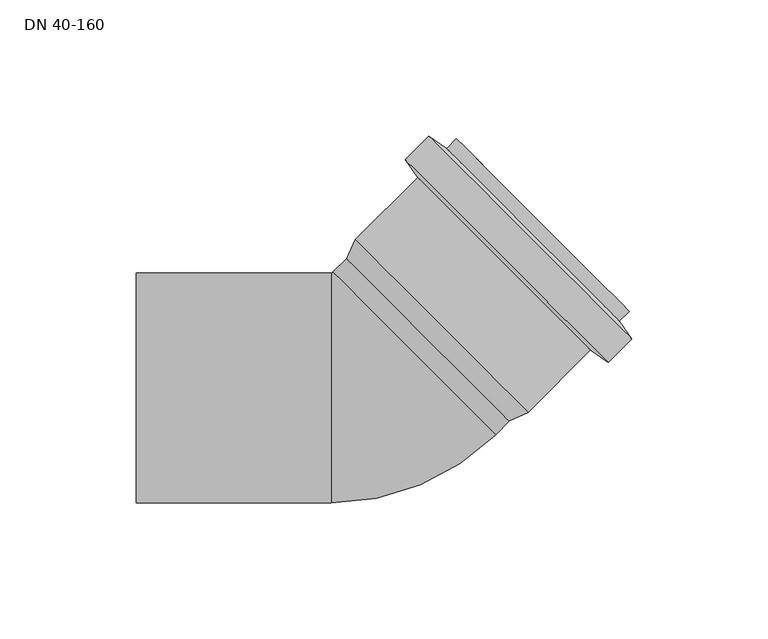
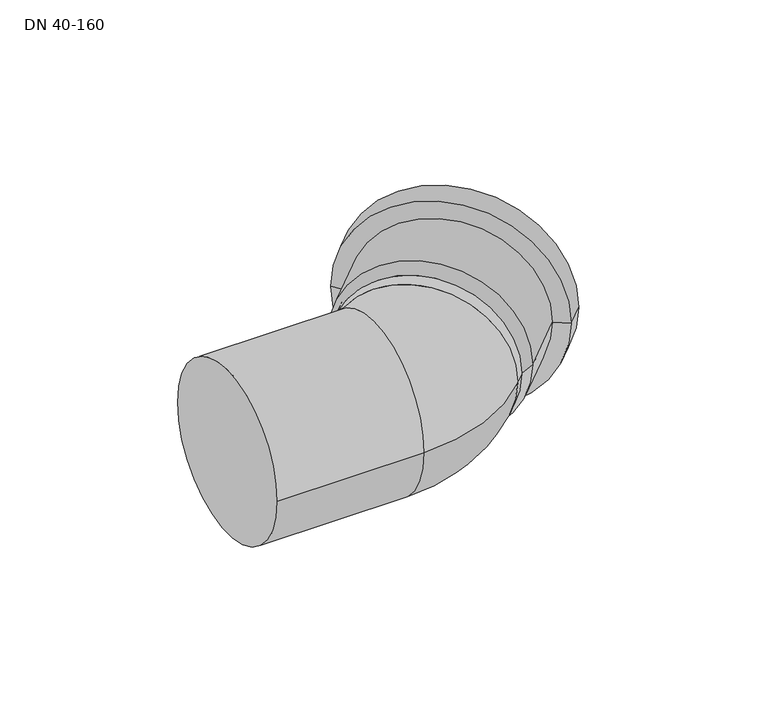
"""IFC4 building model written with IfcOpenShell, lengths in millimetres: pipe fitting geometry, PIF_Master 3+ kolano-sh_Pipelife : DN 40-160."""

from ifc_helpers import new_model, si_unit, point, frame, origin, place, context, project, spatial, polyline, circle_curve, ellipse_curve, trimmed, source, transform, mapped, element, save
from ifc_brep_helpers import plane_surface, cylinder_surface, revolved_surface, advanced_brep


def dn_40_160_16ce5ff3(model_context):
    return source(origin(), model_context, "Body", "AdvancedBrep", [
        advanced_brep(
        [(-12.1622366, 47.5175757, 0.0), (47.5175757, -12.1622366, 0.0), (89.6611399, 29.9813275, 0.0), (29.9813275, 89.6611399, 0.0), (-8.9495385, 54.4072291, 0.0), (54.4072291, -8.9495385, 0.0), (13.9300036, 77.2867712, 0.0), (77.2867712, 13.9300036, 0.0), (9.3434085, 83.8371079, 0.0), (83.8371079, 9.3434085, 0.0), (17.9862686, 92.479968, 0.0), (92.479968, 17.9862686, 0.0), (24.5366053, 87.8933729, 0.0), (87.8933729, 24.5366053, 0.0), (28.1428499, 91.4996175, 0.0), (91.4996175, 28.1428499, 0.0)],
        [
            (0, 1, circle_curve(frame((17.6776695, 17.6776695, 0.0), z_axis=(-0.7071067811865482, -0.707106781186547, 0.0), x_axis=(0.7071067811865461, -0.7071067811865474, 0.0)), 42.2)),
            (1, 2),
            (2, 3, circle_curve(frame((59.8212337, 59.8212337, 0.0), z_axis=(0.7071067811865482, 0.707106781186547, 0.0), x_axis=(0.7071067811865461, -0.7071067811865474, 0.0)), 42.2)),
            (3, 0),
            (1, 0, circle_curve(frame((17.6776695, 17.6776695, 0.0), z_axis=(-0.7071067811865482, -0.707106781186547, 0.0), x_axis=(0.7071067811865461, -0.7071067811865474, 0.0)), 42.2)),
            (3, 2, circle_curve(frame((59.8212337, 59.8212337, 0.0), z_axis=(0.7071067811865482, 0.707106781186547, 0.0), x_axis=(0.7071067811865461, -0.7071067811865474, 0.0)), 42.2)),
            (4, 5, circle_curve(frame((22.7288453, 22.7288453, 0.0), z_axis=(-0.7071067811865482, -0.707106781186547, 0.0), x_axis=(0.7071067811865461, -0.7071067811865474, 0.0)), 44.8)),
            (5, 1),
            (0, 4),
            (5, 4, circle_curve(frame((22.7288453, 22.7288453, 0.0), z_axis=(-0.7071067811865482, -0.707106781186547, 0.0), x_axis=(0.7071067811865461, -0.7071067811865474, 0.0)), 44.8)),
            (6, 7, circle_curve(frame((45.6083874, 45.6083874, 0.0), z_axis=(-0.7071067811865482, -0.707106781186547, 0.0), x_axis=(0.7071067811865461, -0.7071067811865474, 0.0)), 44.8)),
            (7, 5),
            (4, 6),
            (7, 6, circle_curve(frame((45.6083874, 45.6083874, 0.0), z_axis=(-0.7071067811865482, -0.707106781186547, 0.0), x_axis=(0.7071067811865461, -0.7071067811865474, 0.0)), 44.8)),
            (8, 9, circle_curve(frame((46.5902582, 46.5902582, 0.0), z_axis=(-0.7071067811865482, -0.707106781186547, 0.0), x_axis=(0.7071067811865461, -0.7071067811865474, 0.0)), 52.675)),
            (9, 7),
            (6, 8),
            (9, 8, circle_curve(frame((46.5902582, 46.5902582, 0.0), z_axis=(-0.7071067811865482, -0.707106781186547, 0.0), x_axis=(0.7071067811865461, -0.7071067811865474, 0.0)), 52.675)),
            (10, 11, circle_curve(frame((55.2331183, 55.2331183, 0.0), z_axis=(-0.7071067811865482, -0.707106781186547, 0.0), x_axis=(0.7071067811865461, -0.7071067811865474, 0.0)), 52.675)),
            (11, 9),
            (8, 10),
            (11, 10, circle_curve(frame((55.2331183, 55.2331183, 0.0), z_axis=(-0.7071067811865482, -0.707106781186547, 0.0), x_axis=(0.7071067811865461, -0.7071067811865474, 0.0)), 52.675)),
            (12, 13, circle_curve(frame((56.2149891, 56.2149891, 0.0), z_axis=(-0.7071067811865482, -0.707106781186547, 0.0), x_axis=(0.7071067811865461, -0.7071067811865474, 0.0)), 44.8)),
            (13, 11),
            (10, 12),
            (13, 12, circle_curve(frame((56.2149891, 56.2149891, 0.0), z_axis=(-0.7071067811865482, -0.707106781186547, 0.0), x_axis=(0.7071067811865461, -0.7071067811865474, 0.0)), 44.8)),
            (14, 15, circle_curve(frame((59.8212337, 59.8212337, 0.0), z_axis=(-0.7071067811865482, -0.707106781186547, 0.0), x_axis=(0.7071067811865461, -0.7071067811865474, 0.0)), 44.8)),
            (15, 13),
            (12, 14),
            (15, 14, circle_curve(frame((59.8212337, 59.8212337, 0.0), z_axis=(-0.7071067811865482, -0.707106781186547, 0.0), x_axis=(0.7071067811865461, -0.7071067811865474, 0.0)), 44.8)),
            (2, 15),
            (14, 3),
        ],
        [
            revolved_surface(polyline([(89.66113986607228, 29.98132753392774, 0.0), (47.51757566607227, -12.162236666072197, 0.0)]), (66.8923015, 66.8923015, 0.0), (0.7071067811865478, 0.7071067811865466, 0.0)),
            revolved_surface(polyline([(47.5175757, -12.1622366, 0.0), (54.4072291, -8.9495385, 0.0)]), (66.8923015, 66.8923015, 0.0), (0.7071067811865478, 0.7071067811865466, 0.0)),
            cylinder_surface(frame((66.8923015, 66.8923015, 0.0), z_axis=(0.7071067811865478, 0.7071067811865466, 0.0), x_axis=(0.7071067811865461, -0.7071067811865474, 0.0)), 44.8),
            revolved_surface(polyline([(77.2867712, 13.9300036, 0.0), (83.8371079, 9.3434085, 0.0)]), (66.8923015, 66.8923015, 0.0), (0.7071067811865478, 0.7071067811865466, 0.0)),
            cylinder_surface(frame((66.8923015, 66.8923015, 0.0), z_axis=(0.7071067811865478, 0.7071067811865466, 0.0), x_axis=(0.7071067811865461, -0.7071067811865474, 0.0)), 52.675),
            revolved_surface(polyline([(92.479968, 17.9862686, 0.0), (87.8933729, 24.5366053, 0.0)]), (66.8923015, 66.8923015, 0.0), (0.7071067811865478, 0.7071067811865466, 0.0)),
            plane_surface(frame((59.8212337, 59.8212337, 0.0), z_axis=(0.7071067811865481, 0.7071067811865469, 0.0), x_axis=(0.7071067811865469, -0.7071067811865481, 0.0))),
        ],
        [
            (0, [[1, 2, 3, 4]]),
            (0, [[5, -4, 6, -2]]),
            (1, [[7, 8, -1, 9]]),
            (1, [[10, -9, -5, -8]]),
            (2, [[11, 12, -7, 13]]),
            (2, [[14, -13, -10, -12]]),
            (3, [[15, 16, -11, 17]]),
            (3, [[18, -17, -14, -16]]),
            (4, [[19, 20, -15, 21]]),
            (4, [[22, -21, -18, -20]]),
            (5, [[23, 24, -19, 25]]),
            (5, [[26, -25, -22, -24]]),
            (2, [[27, 28, -23, 29]]),
            (2, [[30, -29, -26, -28]]),
            (6, [[-3, 31, -27, 32]]),
            (6, [[-6, -32, -30, -31]]),
        ],
    ),
        advanced_brep(
        [(-89.4, 42.2, 0.0), (-89.4, -42.2, 0.0), (-17.8940259, -42.2, 0.0), (-17.8940259, 42.2, 0.0), (42.4928932, -17.1869191, 0.0), (-17.1869191, 42.4928932, 0.0), (47.5175757, -12.1622366, 0.0), (17.6776695, 17.6776695, 42.2), (-12.1622366, 47.5175757, 0.0), (17.6776695, 17.6776695, -42.2)],
        [
            (0, 1, circle_curve(frame((-89.4, 0.0, 0.0), z_axis=(1.0, 0.0, 0.0), x_axis=(0.0, 1.0, 0.0)), 42.2)),
            (1, 2),
            (2, 3, circle_curve(frame((-17.8940259, 0.0, 0.0), z_axis=(-1.0, 0.0, 0.0), x_axis=(0.0, 1.0, 0.0)), 42.2)),
            (3, 0),
            (1, 0, circle_curve(frame((-89.4, 0.0, 0.0), z_axis=(1.0, 0.0, 0.0), x_axis=(0.0, 1.0, 0.0)), 42.2)),
            (3, 2, circle_curve(frame((-17.8940259, 0.0, 0.0), z_axis=(-1.0, 0.0, 0.0), x_axis=(0.0, 1.0, 0.0)), 42.2)),
            (2, 4, circle_curve(frame((-17.8940259, 43.2, 0.0), z_axis=(0.0, 0.0, 1.0), x_axis=(0.0, -1.0, 0.0)), 85.4)),
            (4, 5, circle_curve(frame((12.6529871, 12.6529871, 0.0), z_axis=(-0.7071067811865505, -0.7071067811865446, 0.0), x_axis=(-0.7071067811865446, 0.7071067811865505, 0.0)), 42.2)),
            (5, 3, circle_curve(frame((-17.8940259, 43.2, 0.0), z_axis=(0.0, 0.0, -1.0), x_axis=(0.0, -1.0, 0.0)), 1.0)),
            (5, 4, circle_curve(frame((12.6529871, 12.6529871, 0.0), z_axis=(-0.7071067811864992, -0.7071067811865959, 0.0), x_axis=(-0.7071067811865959, 0.7071067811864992, 0.0)), 42.2)),
            (4, 6),
            (6, 7, circle_curve(frame((17.6776695, 17.6776695, 0.0), z_axis=(-0.7071067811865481, -0.707106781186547, 0.0), x_axis=(-0.707106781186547, 0.7071067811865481, 0.0)), 42.2)),
            (7, 8, circle_curve(frame((17.6776695, 17.6776695, 0.0), z_axis=(-0.7071067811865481, -0.707106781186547, 0.0), x_axis=(-0.707106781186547, 0.7071067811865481, 0.0)), 42.2)),
            (8, 5),
            (8, 9, circle_curve(frame((17.6776695, 17.6776695, 0.0), z_axis=(-0.7071067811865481, -0.707106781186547, 0.0), x_axis=(-0.707106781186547, 0.7071067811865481, 0.0)), 42.2)),
            (9, 6, circle_curve(frame((17.6776695, 17.6776695, 0.0), z_axis=(-0.7071067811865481, -0.707106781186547, 0.0), x_axis=(-0.707106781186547, 0.7071067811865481, 0.0)), 42.2)),
        ],
        [
            cylinder_surface(frame((-89.4, 0.0, 0.0), z_axis=(-1.0, 0.0, 0.0), x_axis=(0.0, 1.0, 0.0)), 42.2),
            revolved_surface(trimmed(ellipse_curve(frame((-17.8940259, 0.0, 0.0), z_axis=(-1.0, 0.0, 0.0), x_axis=(0.0, 1.0, 0.0)), 42.2, 42.2), [point((-17.8940259, -42.2, 0.0))], [point((-17.8940259, 42.2, 0.0))], True, "CARTESIAN"), (-17.8940259, 43.2, 0.0), (0.0, 0.0, 1.0)),
            revolved_surface(trimmed(ellipse_curve(frame((-17.8940259, 0.0, 0.0), z_axis=(-1.0, 0.0, 0.0), x_axis=(0.0, 1.0, 0.0)), 42.2, 42.2), [point((-17.8940259, 42.2, 0.0))], [point((-17.8940259, -42.2, 0.0))], True, "CARTESIAN"), (-17.8940259, 43.2, 0.0), (0.0, 0.0, 1.0)),
            cylinder_surface(frame((12.6529871, 12.6529871, 0.0), z_axis=(-0.7071067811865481, -0.707106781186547, 0.0), x_axis=(-0.707106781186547, 0.7071067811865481, 0.0)), 42.2),
            plane_surface(frame((-89.4, 0.0, 0.0), z_axis=(-1.0, 0.0, 0.0), x_axis=(0.0, 0.0, 1.0))),
            plane_surface(frame((17.6776695, 17.6776695, -42.2), z_axis=(0.7071067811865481, 0.707106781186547, 0.0), x_axis=(0.707106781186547, -0.7071067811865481, 0.0))),
        ],
        [
            (0, [[1, 2, 3, 4]]),
            (0, [[5, -4, 6, -2]]),
            (1, [[-3, 7, 8, 9]]),
            (2, [[-6, -9, 10, -7]]),
            (3, [[-8, 11, 12, 13, 14]]),
            (3, [[-10, -14, 15, 16, -11]]),
            (4, [[-1, -5]]),
            (5, [[-12, -16, -15, -13]]),
        ],
    ),
    ])


if __name__ == "__main__":
    model = new_model("IFC4")
    model_context = context("Model", 3, world=origin())
    ifc_project = project(units=[si_unit("LENGTHUNIT", "METRE", prefix="MILLI")], contexts=[model_context])
    site = spatial("IfcSite", under=ifc_project)
    building = spatial("IfcBuilding", under=site)
    placement = place(None, origin())
    dn_40_160_shape = dn_40_160_16ce5ff3(model_context)
    element("IfcPipeFitting", 1, ObjectType="PIF_Master 3+ kolano-sh_Pipelife : DN 40-160", at=placement, inside=building, context=model_context, shape_type="MappedRepresentation", body=[
        mapped(dn_40_160_shape, transform((0.0, 0.0, 0.0), x_axis=(1.0, 0.0, 0.0), y_axis=(0.0, 1.0, 0.0), z_axis=(0.0, 0.0, 1.0))),
    ])
    save(model, "model.ifc")
